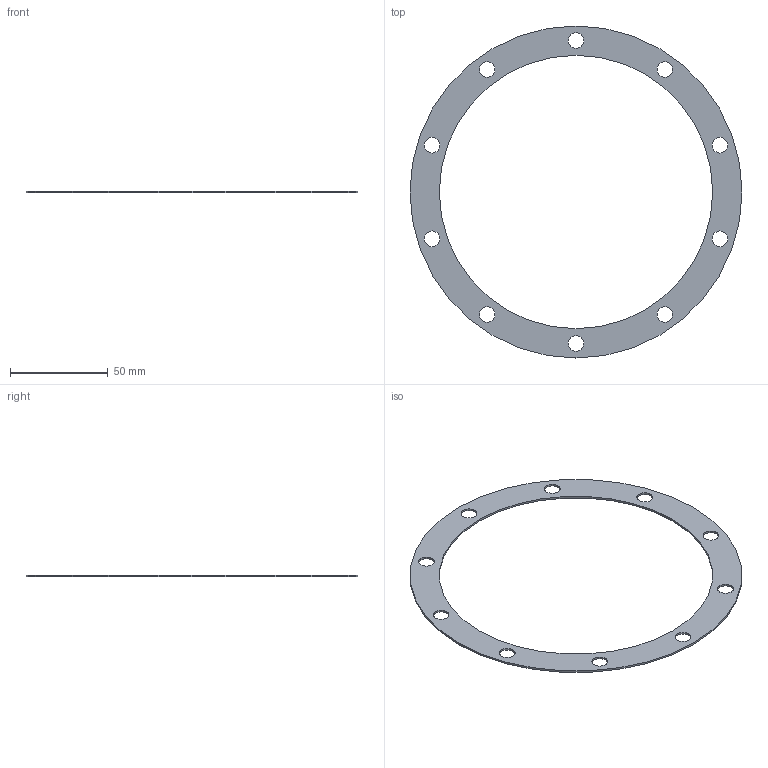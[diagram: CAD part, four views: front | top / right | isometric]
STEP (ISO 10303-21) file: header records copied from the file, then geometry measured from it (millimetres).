
FILE_DESCRIPTION(/* description */ (''),/* implementation_level */ '2;1');
FILE_NAME(/* name */ 'G:\YandexDisk\Работа\Inventor\Универ\ОАП\Лабораторные работы\ЛР6 Создание сборок\Редуктор\stp\Прокладка 1.stp',/* time_stamp */ '2023-11-17T06:36:13+03:00',/* author */ ('34740'),/* organization */ (''),/* preprocessor_version */ 'ST-DEVELOPER v18.1',/* originating_system */ 'Autodesk Inventor 2022',/* authorisation */ '');
FILE_SCHEMA (('AUTOMOTIVE_DESIGN { 1 0 10303 214 3 1 1 }'));
Length unit declared in the file: millimetre
Products named in the file (1): Прокладка 1
Bounding box: 170 x 170 x 1 mm (x, y, z)
Volume: 6801.5 mm3; surface area: 14828.3 mm2
Topology: 1 solids, 1 shells, 14 faces, 36 edges, 24 vertices
Faces by surface type: cylinder 12, plane 2
Full cylindrical faces by diameter (mm): 8 x10, 140 x1, 170 x1
Entity records: 529 total; most frequent: DIRECTION 90, CARTESIAN_POINT 75, ORIENTED_EDGE 72, AXIS2_PLACEMENT_3D 39, EDGE_LOOP 36, EDGE_CURVE 36, CIRCLE 24, VERTEX_POINT 24
